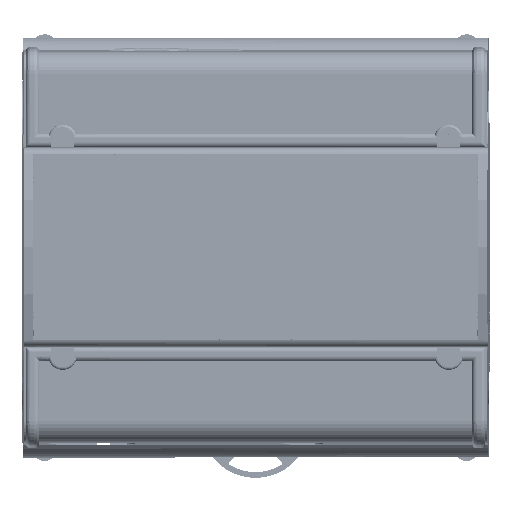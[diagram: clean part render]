
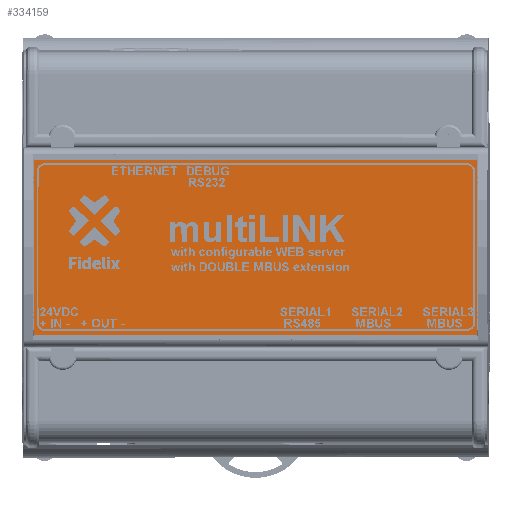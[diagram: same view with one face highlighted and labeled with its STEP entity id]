
A CAD part, top view. The second image highlights one B-rep face of the part: STEP entity #334159.
In plain terms, the highlighted planar face has unit normal (0, 0, 1).
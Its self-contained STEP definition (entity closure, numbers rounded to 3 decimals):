
#5960=PLANE('',#375864);
#22914=FACE_OUTER_BOUND('',#40605,.T.);
#40605=EDGE_LOOP('',(#284541,#284542,#284543,#284544));
#63161=LINE('',#586141,#86272);
#63164=LINE('',#586147,#86275);
#63167=LINE('',#586153,#86278);
#63170=LINE('',#586157,#86281);
#86272=VECTOR('',#480008,1000.);
#86275=VECTOR('',#480013,1000.);
#86278=VECTOR('',#480018,1000.);
#86281=VECTOR('',#480023,1000.);
#142712=VERTEX_POINT('',#586138);
#142713=VERTEX_POINT('',#586140);
#142715=VERTEX_POINT('',#586146);
#142717=VERTEX_POINT('',#586152);
#190149=EDGE_CURVE('',#142713,#142712,#63161,.T.);
#190152=EDGE_CURVE('',#142715,#142713,#63164,.T.);
#190155=EDGE_CURVE('',#142717,#142715,#63167,.T.);
#190158=EDGE_CURVE('',#142712,#142717,#63170,.T.);
#284541=ORIENTED_EDGE('',*,*,#190158,.T.);
#284542=ORIENTED_EDGE('',*,*,#190155,.T.);
#284543=ORIENTED_EDGE('',*,*,#190152,.T.);
#284544=ORIENTED_EDGE('',*,*,#190149,.T.);
#334159=ADVANCED_FACE('',(#22914),#5960,.T.);
#375864=AXIS2_PLACEMENT_3D('',#586158,#480024,#480025);
#480008=DIRECTION('',(-1.,0.,0.));
#480013=DIRECTION('',(0.,1.,0.));
#480018=DIRECTION('',(1.,0.,0.));
#480023=DIRECTION('',(0.,-1.,0.));
#480024=DIRECTION('center_axis',(0.,0.,1.));
#480025=DIRECTION('ref_axis',(1.,0.,0.));
#586138=CARTESIAN_POINT('',(-50.5,20.,58.739));
#586140=CARTESIAN_POINT('',(50.5,20.,58.739));
#586141=CARTESIAN_POINT('',(50.5,20.,58.739));
#586146=CARTESIAN_POINT('',(50.5,-20.,58.739));
#586147=CARTESIAN_POINT('',(50.5,-20.,58.739));
#586152=CARTESIAN_POINT('',(-50.5,-20.,58.739));
#586153=CARTESIAN_POINT('',(-50.5,-20.,58.739));
#586157=CARTESIAN_POINT('',(-50.5,20.,58.739));
#586158=CARTESIAN_POINT('Origin',(0.,0.,58.739));
